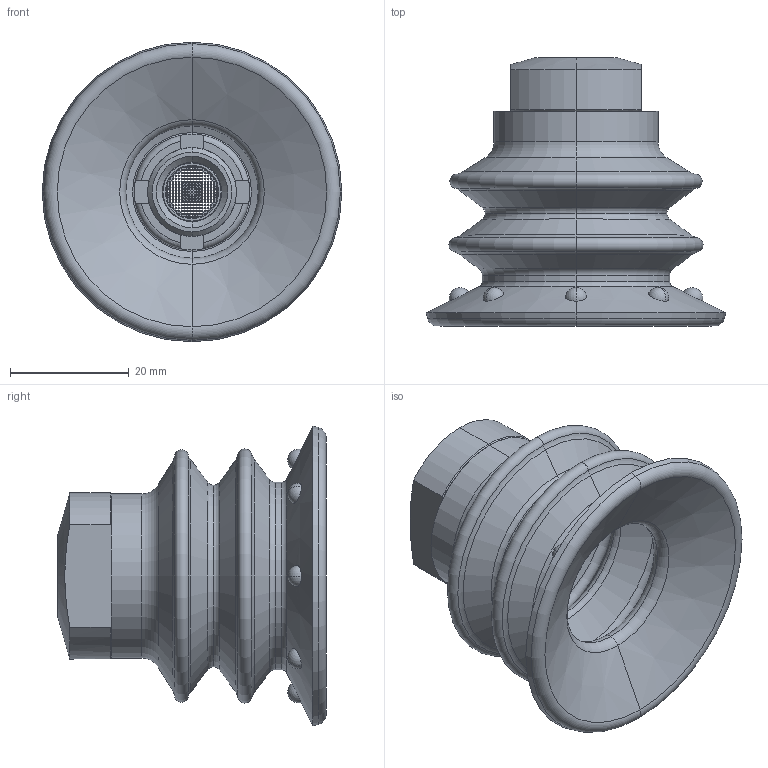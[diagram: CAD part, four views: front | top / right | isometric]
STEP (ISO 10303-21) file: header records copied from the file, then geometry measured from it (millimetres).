
FILE_DESCRIPTION (( 'STEP AP214' ), '1' );
FILE_NAME ('96C 50 18D-2-F .step', '2024-12-16T07:13:41', ( '' ), ( '' ), 'SwSTEP 2.0', 'SolidWorks 2021', '' );
FILE_SCHEMA (( 'AUTOMOTIVE_DESIGN' ));
Length unit declared in the file: millimetre
Products named in the file (1): 96C 50 18D-2-F 
Bounding box: 50.5 x 45.2 x 50.5 mm (x, y, z)
Volume: 20733.3 mm3; surface area: 16503.3 mm2
Topology: 4 solids, 4 shells, 1568 faces, 4438 edges, 2306 vertices
Faces by surface type: cylinder 1426, torus 52, cone 39, plane 33, sphere 16, bspline 2
Entity records: 53334 total; most frequent: CARTESIAN_POINT 20890, ORIENTED_EDGE 8876, DIRECTION 5025, EDGE_CURVE 4438, VERTEX_POINT 2306, AXIS2_PLACEMENT_3D 1802, EDGE_LOOP 1588, FACE_OUTER_BOUND 1568
